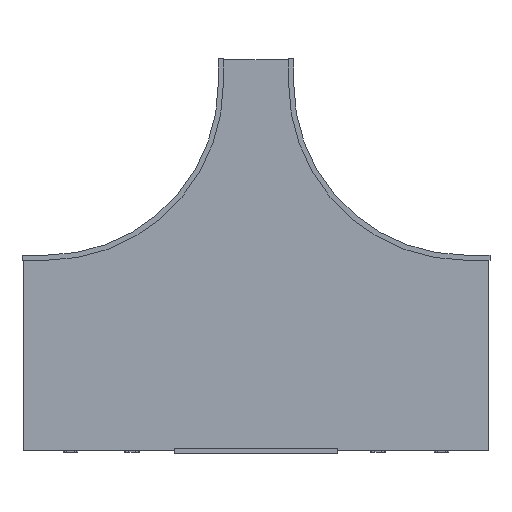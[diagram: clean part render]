
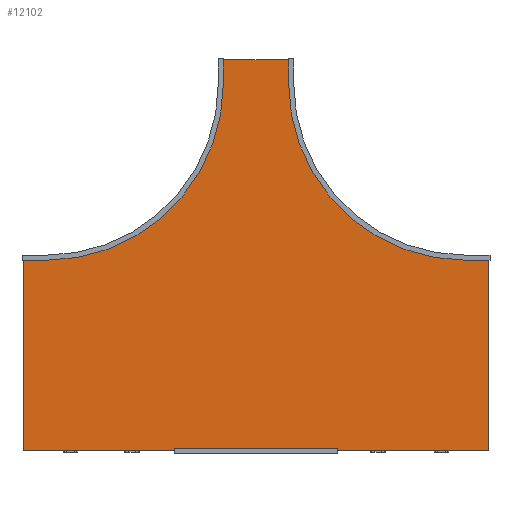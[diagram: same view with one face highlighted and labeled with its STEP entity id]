
A CAD part, front view. The second image highlights one B-rep face of the part: STEP entity #12102.
In plain terms, the highlighted planar face has unit normal (0, -1, 0).
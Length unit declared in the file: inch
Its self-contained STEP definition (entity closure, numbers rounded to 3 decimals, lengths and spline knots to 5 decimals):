
#11911=DIRECTION('',(1.,0.,0.));
#11912=VECTOR('',#11911,8.875);
#11913=CARTESIAN_POINT('',(-4.4375,0.,0.));
#11914=LINE('',#11913,#11912);
#11915=DIRECTION('',(0.,0.,-1.));
#11916=VECTOR('',#11915,2.875);
#11917=CARTESIAN_POINT('',(4.4375,0.,0.));
#11918=LINE('',#11917,#11916);
#11919=CARTESIAN_POINT('',(25.5,0.,-2.875));
#11920=DIRECTION('',(0.,-1.,0.));
#11921=DIRECTION('',(-1.,0.,0.));
#11922=AXIS2_PLACEMENT_3D('',#11919,#11920,#11921);
#11924=DIRECTION('',(1.,0.,0.));
#11925=VECTOR('',#11924,2.875);
#11926=CARTESIAN_POINT('',(25.5,0.,-23.9375));
#11927=LINE('',#11926,#11925);
#11928=DIRECTION('',(0.,0.,-1.));
#11929=VECTOR('',#11928,23.875);
#11930=CARTESIAN_POINT('',(28.375,0.,-23.9375));
#11931=LINE('',#11930,#11929);
#11932=DIRECTION('',(-1.,0.,0.));
#11933=VECTOR('',#11932,56.75);
#11934=CARTESIAN_POINT('',(28.375,0.,-47.8125));
#11935=LINE('',#11934,#11933);
#11936=DIRECTION('',(0.,0.,1.));
#11937=VECTOR('',#11936,23.875);
#11938=CARTESIAN_POINT('',(-28.375,0.,-47.8125));
#11939=LINE('',#11938,#11937);
#11940=DIRECTION('',(1.,0.,0.));
#11941=VECTOR('',#11940,2.875);
#11942=CARTESIAN_POINT('',(-28.375,0.,-23.9375));
#11943=LINE('',#11942,#11941);
#11944=CARTESIAN_POINT('',(-25.5,0.,-2.875));
#11945=DIRECTION('',(0.,-1.,0.));
#11946=DIRECTION('',(0.,0.,-1.));
#11947=AXIS2_PLACEMENT_3D('',#11944,#11945,#11946);
#11949=DIRECTION('',(0.,0.,1.));
#11950=VECTOR('',#11949,2.875);
#11951=CARTESIAN_POINT('',(-4.4375,0.,-2.875));
#11952=LINE('',#11951,#11950);
#12035=CARTESIAN_POINT('',(-4.4375,0.,0.));
#12036=CARTESIAN_POINT('',(4.4375,0.,0.));
#12037=VERTEX_POINT('',#12035);
#12038=VERTEX_POINT('',#12036);
#12039=CARTESIAN_POINT('',(4.4375,0.,-2.875));
#12040=VERTEX_POINT('',#12039);
#12041=CARTESIAN_POINT('',(25.5,0.,-23.9375));
#12042=VERTEX_POINT('',#12041);
#12043=CARTESIAN_POINT('',(28.375,0.,-23.9375));
#12044=VERTEX_POINT('',#12043);
#12045=CARTESIAN_POINT('',(28.375,0.,-47.8125));
#12046=VERTEX_POINT('',#12045);
#12047=CARTESIAN_POINT('',(-28.375,0.,-47.8125));
#12048=VERTEX_POINT('',#12047);
#12049=CARTESIAN_POINT('',(-28.375,0.,-23.9375));
#12050=VERTEX_POINT('',#12049);
#12051=CARTESIAN_POINT('',(-25.5,0.,-23.9375));
#12052=VERTEX_POINT('',#12051);
#12053=CARTESIAN_POINT('',(-4.4375,0.,-2.875));
#12054=VERTEX_POINT('',#12053);
#12075=CARTESIAN_POINT('',(0.,0.,0.));
#12076=DIRECTION('',(0.,1.,0.));
#12077=DIRECTION('',(1.,0.,0.));
#12078=AXIS2_PLACEMENT_3D('',#12075,#12076,#12077);
#12079=PLANE('',#12078);
#12081=ORIENTED_EDGE('',*,*,#12080,.T.);
#12083=ORIENTED_EDGE('',*,*,#12082,.T.);
#12085=ORIENTED_EDGE('',*,*,#12084,.T.);
#12087=ORIENTED_EDGE('',*,*,#12086,.T.);
#12089=ORIENTED_EDGE('',*,*,#12088,.T.);
#12091=ORIENTED_EDGE('',*,*,#12090,.T.);
#12093=ORIENTED_EDGE('',*,*,#12092,.T.);
#12095=ORIENTED_EDGE('',*,*,#12094,.T.);
#12097=ORIENTED_EDGE('',*,*,#12096,.T.);
#12099=ORIENTED_EDGE('',*,*,#12098,.T.);
#12100=EDGE_LOOP('',(#12081,#12083,#12085,#12087,#12089,#12091,#12093,#12095,
#12097,#12099));
#12101=FACE_OUTER_BOUND('',#12100,.F.);
#12102=ADVANCED_FACE('',(#12101),#12079,.F.);
#11923=CIRCLE('',#11922,21.0625);
#11948=CIRCLE('',#11947,21.0625);
#12080=EDGE_CURVE('',#12037,#12038,#11914,.T.);
#12082=EDGE_CURVE('',#12038,#12040,#11918,.T.);
#12084=EDGE_CURVE('',#12040,#12042,#11923,.T.);
#12086=EDGE_CURVE('',#12042,#12044,#11927,.T.);
#12088=EDGE_CURVE('',#12044,#12046,#11931,.T.);
#12090=EDGE_CURVE('',#12046,#12048,#11935,.T.);
#12092=EDGE_CURVE('',#12048,#12050,#11939,.T.);
#12094=EDGE_CURVE('',#12050,#12052,#11943,.T.);
#12096=EDGE_CURVE('',#12052,#12054,#11948,.T.);
#12098=EDGE_CURVE('',#12054,#12037,#11952,.T.);
